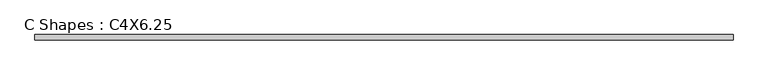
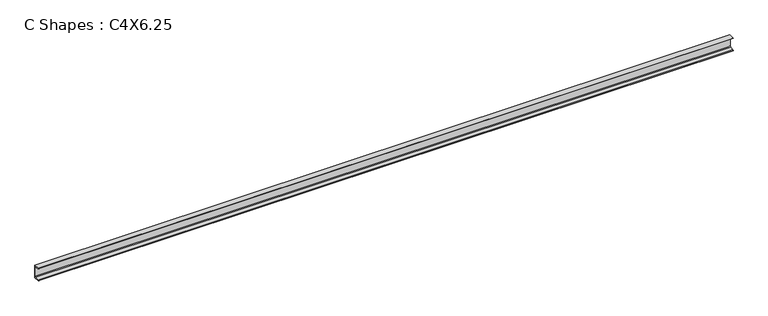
"""IFC4 building model written with IfcOpenShell, lengths in millimetres: beam geometry, C Shapes : C4X6.25."""

from ifc_helpers import new_model, si_unit, point, frame, frame_2d, origin, place, context, project, spatial, polyline, circle_curve, trimmed, segment, composite_curve, outline, extrude, source, transform, mapped, element, save


def c_shapes_c4x6_25_d7d597ab(model_context):
    return source(origin(), model_context, "Body", "SweptSolid", [
        extrude(outline(composite_curve([segment(polyline([(11.049, 50.8), (11.049, -50.8), (-30.861, -50.8), (-30.861, -49.7865772)]), True, "CONTINUOUS"), segment(trimmed(circle_curve(frame_2d((-27.4066, -49.7865772)), 3.4544), [point((-30.861, -49.7865772))], [point((-27.9743618, -46.379155))], False, "CARTESIAN"), True, "CONTINUOUS"), segment(polyline([(-27.9743618, -46.379155), (-0.9980765, -41.8842311)]), True, "CONTINUOUS"), segment(trimmed(circle_curve(frame_2d((-2.1336, -35.0693868)), 6.9088), [point((-0.9980765, -41.8842311))], [point((4.7752, -35.0693868))], True, "CARTESIAN"), True, "CONTINUOUS"), segment(polyline([(4.7752, -35.0693868), (4.7752, 35.0693868)]), True, "CONTINUOUS"), segment(trimmed(circle_curve(frame_2d((-2.1336, 35.0693868)), 6.9088), [point((4.7752, 35.0693868))], [point((-0.9980765, 41.8842311))], True, "CARTESIAN"), True, "CONTINUOUS"), segment(polyline([(-0.9980765, 41.8842311), (-27.9743618, 46.379155)]), True, "CONTINUOUS"), segment(trimmed(circle_curve(frame_2d((-27.4066, 49.7865772)), 3.4544), [point((-27.9743618, 46.379155))], [point((-30.861, 49.7865772))], False, "CARTESIAN"), True, "CONTINUOUS"), segment(polyline([(-30.861, 49.7865772), (-30.861, 50.8), (11.049, 50.8)]), True, "CONTINUOUS")], self_intersect=False)), frame((-2651.6511428, 0.0, 0.0), z_axis=(1.0, 0.0, 0.0), x_axis=(0.0, 1.0, 0.0)), (0.0, 0.0, 1.0), 5303.3022857),
    ])


if __name__ == "__main__":
    model = new_model("IFC4")
    model_context = context("Model", 3, world=origin())
    ifc_project = project(units=[si_unit("LENGTHUNIT", "METRE", prefix="MILLI")], contexts=[model_context])
    site = spatial("IfcSite", under=ifc_project)
    building = spatial("IfcBuilding", under=site)
    placement = place(None, origin())
    c_shapes_c4x6_25_shape = c_shapes_c4x6_25_d7d597ab(model_context)
    element("IfcBeam", 1, ObjectType="C Shapes : C4X6.25", at=placement, inside=building, context=model_context, shape_type="MappedRepresentation", body=[
        mapped(c_shapes_c4x6_25_shape, transform((0.0, 0.0, 0.0), x_axis=(1.0, 0.0, 0.0), y_axis=(0.0, 1.0, 0.0), z_axis=(0.0, 0.0, 1.0))),
    ])
    save(model, "model.ifc")
